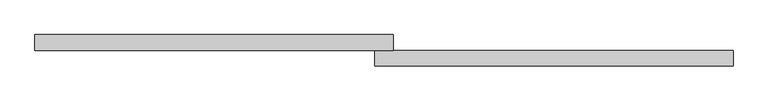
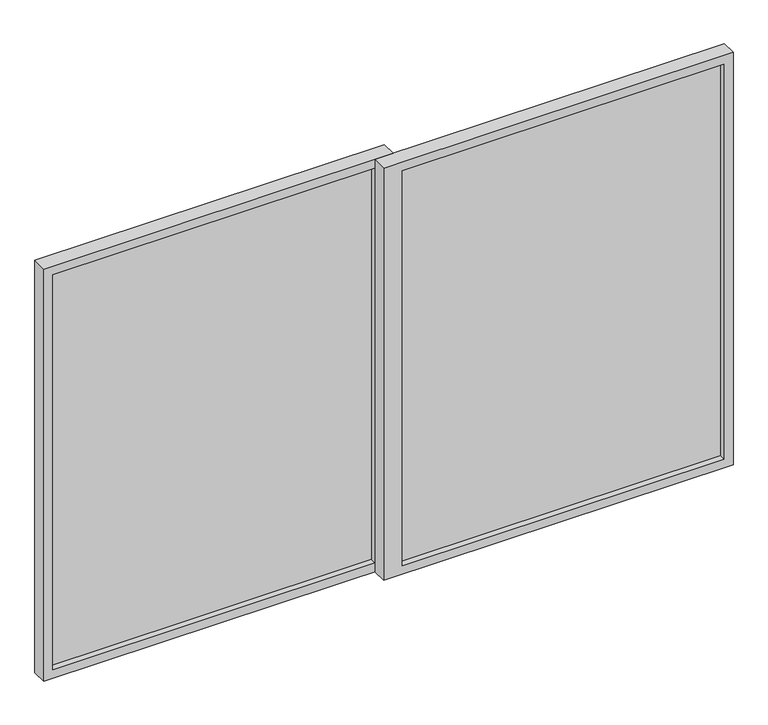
"""IFC4 building model written with IfcOpenShell, lengths in millimetres: plate geometry, 教学楼 - 窗嵌板：双扇推拉窗 : 教学楼 - 窗嵌板：双扇推拉窗."""

from ifc_helpers import new_model, si_unit, frame, origin, place, context, project, spatial, polyline, outline, extrude, source, transform, mapped, element, save


def plate_75e73fbb(model_context):
    return source(origin(), model_context, "Body", "SweptSolid", [
        extrude(outline(polyline([(-30.0, 20.0), (-1082.5, 20.0), (-1082.5, 30.0), (-30.0, 30.0), (-30.0, 20.0)])), frame((0.0, 0.0, 30.0), z_axis=(0.0, 0.0, 1.0), x_axis=(1.0, 0.0, 0.0)), (0.0, 0.0, 1.0), 1365.0),
        extrude(outline(polyline([(1425.0, -1112.5), (0.0, -1112.5), (0.0, 30.0), (1425.0, 30.0), (1425.0, -1112.5)]), holes=[polyline([(1395.0, -1082.5), (1395.0, -30.0), (30.0, -30.0), (30.0, -1082.5), (1395.0, -1082.5)])]), frame((0.0, 0.0, 0.0), z_axis=(0.0, 1.0, 0.0), x_axis=(0.0, 0.0, 1.0)), (0.0, 0.0, 1.0), 50.0),
        extrude(outline(polyline([(1082.5, -30.0), (30.0, -30.0), (30.0, -20.0), (1082.5, -20.0), (1082.5, -30.0)])), frame((0.0, 0.0, 30.0), z_axis=(0.0, 0.0, 1.0), x_axis=(1.0, 0.0, 0.0)), (0.0, 0.0, 1.0), 1365.0),
        extrude(outline(polyline([(1425.0, -30.0), (0.0, -30.0), (0.0, 1112.5), (1425.0, 1112.5), (1425.0, -30.0)]), holes=[polyline([(1395.0, 30.0), (1395.0, 1082.5), (30.0, 1082.5), (30.0, 30.0), (1395.0, 30.0)])]), frame((0.0, -50.0, 0.0), z_axis=(0.0, 1.0, 0.0), x_axis=(0.0, 0.0, 1.0)), (0.0, 0.0, 1.0), 50.0),
    ])


if __name__ == "__main__":
    model = new_model("IFC4")
    model_context = context("Model", 3, world=origin())
    ifc_project = project(units=[si_unit("LENGTHUNIT", "METRE", prefix="MILLI")], contexts=[model_context])
    site = spatial("IfcSite", under=ifc_project)
    building = spatial("IfcBuilding", under=site)
    placement = place(None, origin())
    plate_shape = plate_75e73fbb(model_context)
    element("IfcPlate", 1, ObjectType="教学楼 - 窗嵌板：双扇推拉窗 : 教学楼 - 窗嵌板：双扇推拉窗", at=placement, inside=building, context=model_context, shape_type="MappedRepresentation", body=[
        mapped(plate_shape, transform((0.0, 0.0, 0.0), x_axis=(1.0, 0.0, 0.0), y_axis=(0.0, 1.0, 0.0), z_axis=(0.0, 0.0, 1.0))),
    ])
    save(model, "model.ifc")
